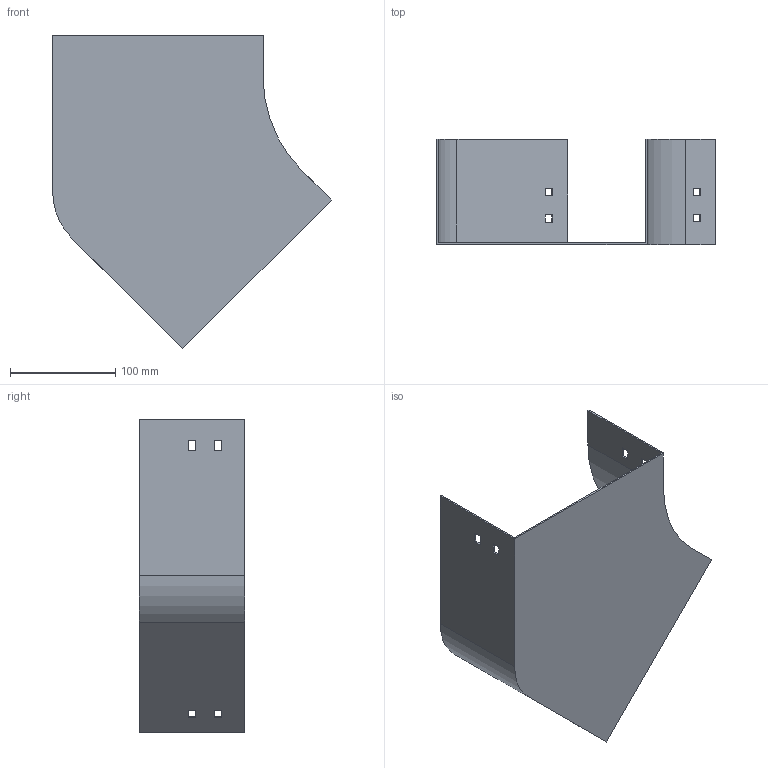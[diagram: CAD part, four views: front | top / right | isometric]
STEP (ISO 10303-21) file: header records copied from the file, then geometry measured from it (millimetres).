
FILE_DESCRIPTION (( 'STEP AP214' ), '1' );
FILE_NAME ('P4_201.step', '2025-07-16T09:19:07', ( '' ), ( '' ), 'SwSTEP 2.0', 'SolidWorks 2023', '' );
FILE_SCHEMA (( 'AUTOMOTIVE_DESIGN' ));
Length unit declared in the file: millimetre
Products named in the file (1): P4_201
Bounding box: 264.9 x 100 x 298.09 mm (x, y, z)
Volume: 156985 mm3; surface area: 211699.5 mm2
Topology: 1 solids, 1 shells, 50 faces, 144 edges, 96 vertices
Faces by surface type: plane 46, cylinder 4
Entity records: 1671 total; most frequent: CARTESIAN_POINT 291, ORIENTED_EDGE 288, DIRECTION 254, EDGE_CURVE 144, LINE 136, VECTOR 136, VERTEX_POINT 96, EDGE_LOOP 66
